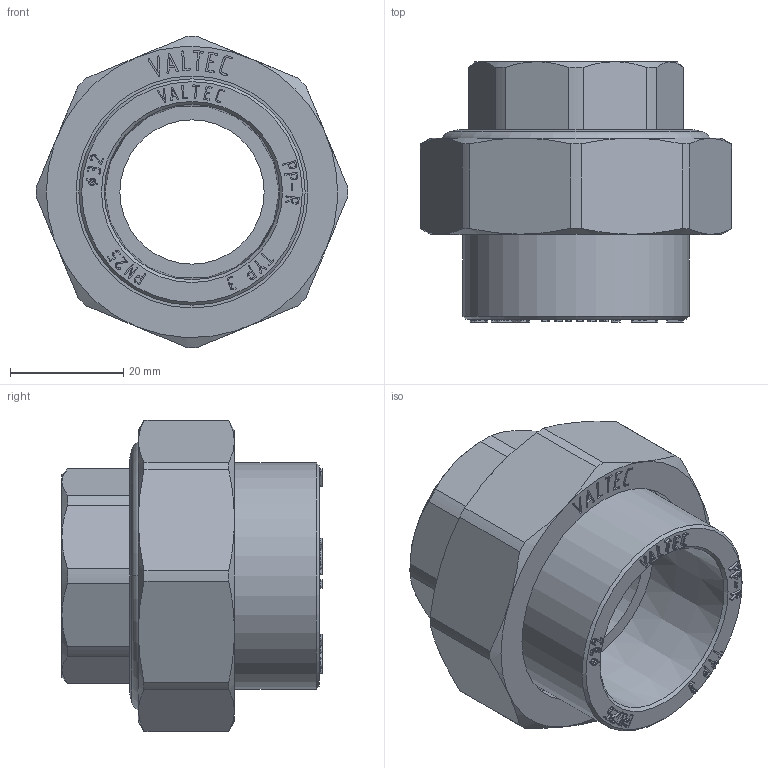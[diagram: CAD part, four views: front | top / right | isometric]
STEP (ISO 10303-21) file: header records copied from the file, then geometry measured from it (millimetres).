
FILE_DESCRIPTION(('STEP AP203'), '1');
FILE_NAME('VTp.762.0.03206', '2026-07-20T07:31:47', ('ledenevaEA'), (''), 'C3D Converter', 'C3D Toolkit', '');
FILE_SCHEMA(('CONFIG_CONTROL_DESIGN'));
Length unit declared in the file: millimetre
Products named in the file (1): ВР.302634.113.000 СБ
Bounding box: 55 x 46 x 55 mm (x, y, z)
Volume: 39053.7 mm3; surface area: 14878.7 mm2
Topology: 1 solids, 1 shells, 724 faces, 2017 edges, 1337 vertices
Faces by surface type: extrusion 401, plane 278, cone 23, cylinder 20, torus 2
Full cylindrical faces by diameter (mm): 25.5 x1, 30.292 x1, 40 x1, 41 x1
Entity records: 24691 total; most frequent: CARTESIAN_POINT 7716, ORIENTED_EDGE 4012, DIRECTION 2283, EDGE_CURVE 2006, VECTOR 1495, VERTEX_POINT 1337, B_SPLINE_CURVE_WITH_KNOTS 1243, LINE 1094
